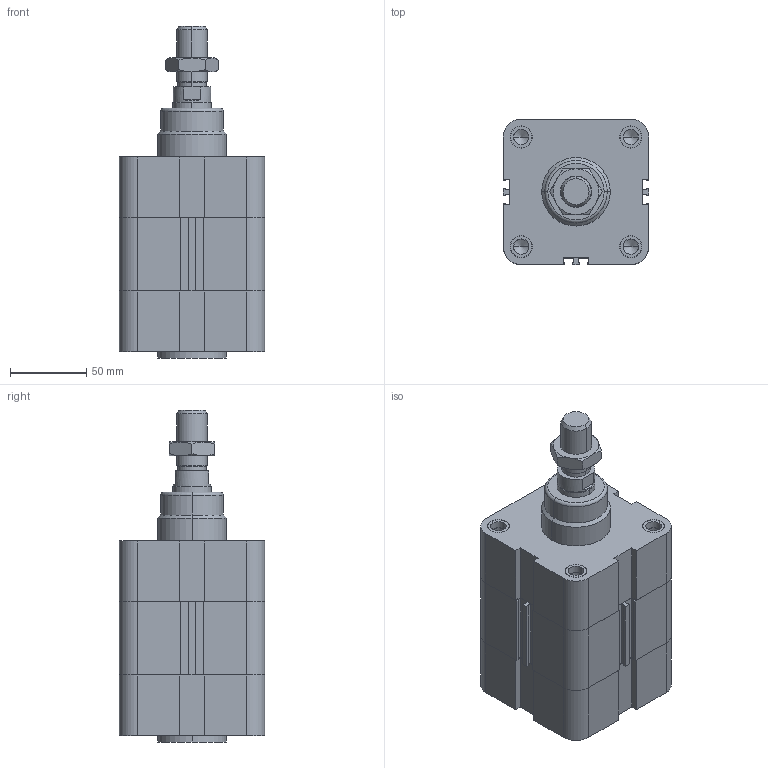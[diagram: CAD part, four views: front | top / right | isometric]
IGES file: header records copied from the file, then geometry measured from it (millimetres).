
Global section: file name: No Iges File Name specified; native system: Autodesk Inventor 2010; preprocessor: AutoDesk Inventor Iges Exporter R2010; author: rivolro1; date: 20090707.103352; units: millimetre
Bounding box: 95.5 x 95.5 x 218 mm (x, y, z)
Volume: 1178049.2 mm3; surface area: 161438.1 mm2
Topology: 5 solids, 5 shells, 290 faces, 694 edges, 440 vertices
Faces by surface type: plane 120, bspline 74, cylinder 40, revolution 34, cone 20, torus 2
